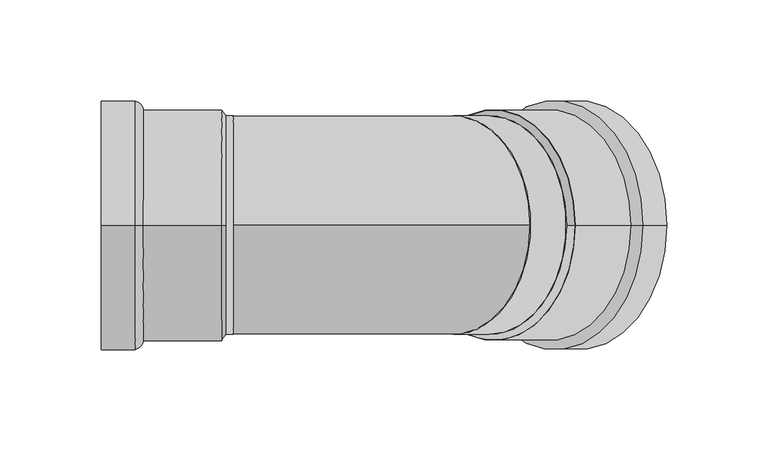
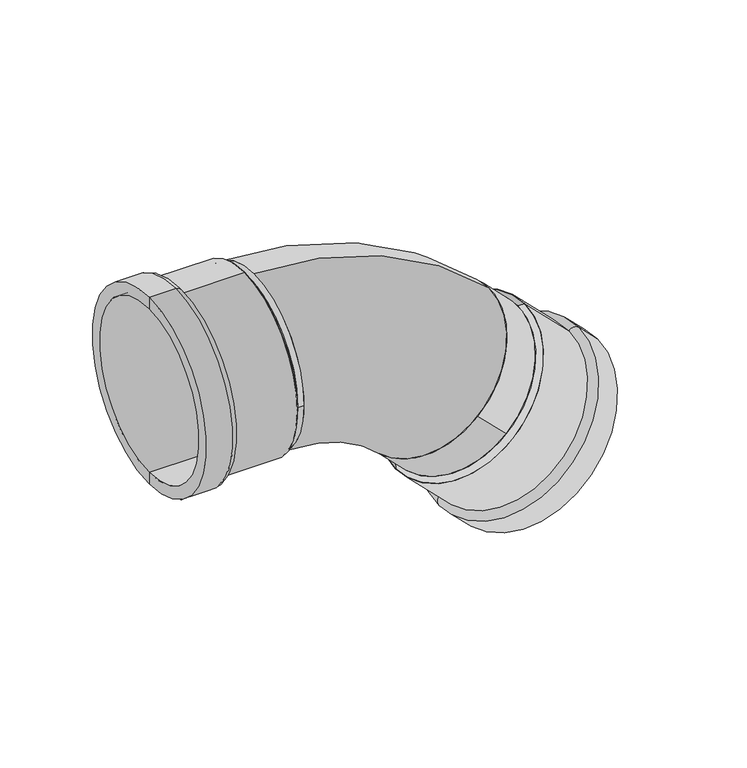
"""IFC4 building model written with IfcOpenShell, lengths in millimetres: pipe fitting geometry, VALTEC_VTi.959.I_Угольник 45° (раструб–раструб) нержавеющая сталь : Тип 1."""

from ifc_helpers import new_model, si_unit, point, frame, frame_2d, origin, origin_2d, place, context, project, spatial, polyline, circle_curve, ellipse_curve, trimmed, segment, composite_curve, outline, extrude, source, transform, mapped, element, save
from ifc_brep_helpers import plane_surface, cylinder_surface, revolved_surface, advanced_brep


def pipe_fitting_f5040854(model_context):
    return source(origin(), model_context, "Body", "SolidModel", [
        advanced_brep(
        [(-5.75, 0.0, 56.7), (-5.75, 0.0, -56.7), (-3.75, 0.0, 54.0), (-3.75, 0.0, -54.0)],
        [
            (0, 1, circle_curve(frame((-5.75, 0.0, 0.0), z_axis=(-1.0, 0.0, 0.0), x_axis=(0.0, 0.0, 1.0)), 56.7)),
            (1, 0, circle_curve(frame((-5.75, 0.0, 0.0), z_axis=(-1.0, 0.0, 0.0), x_axis=(0.0, 0.0, -1.0)), 56.7)),
            (2, 3, circle_curve(frame((-3.75, 0.0, 0.0), z_axis=(1.0, 0.0, 0.0), x_axis=(0.0, 0.0, -1.0)), 54.0)),
            (3, 2, circle_curve(frame((-3.75, 0.0, 0.0), z_axis=(1.0, 0.0, 0.0), x_axis=(0.0, 0.0, 1.0)), 54.0)),
            (3, 1),
            (0, 2),
        ],
        [
            plane_surface(frame((-5.75, 0.0, 0.0), z_axis=(-1.0, 0.0, 0.0), x_axis=(0.0, 1.0, 0.0))),
            plane_surface(frame((-3.75, 0.0, 0.0), z_axis=(1.0, 0.0, 0.0), x_axis=(0.0, 1.0, 0.0))),
            revolved_surface(polyline([(-3.75, 0.0, -54.0), (-5.75, 0.0, -56.7)]), (36.25, 0.0, 0.0), (-1.0, 0.0, 0.0)),
            revolved_surface(polyline([(-3.75, 0.0, 54.0), (-5.75, 0.0, 56.7)]), (36.25, 0.0, 0.0), (-1.0, 0.0, 0.0)),
        ],
        [
            (0, [[1, 2]]),
            (1, [[3, 4]]),
            (2, [[-4, 5, -1, 6]]),
            (3, [[-3, -6, -2, -5]]),
        ],
    ),
        advanced_brep(
        [(88.4092459, 0.0, -105.013373), (168.5951549, 0.0, -24.827464), (88.1971138, 0.0, -100.9828644), (164.5646462, 0.0, -24.615332)],
        [
            (0, 1, circle_curve(frame((128.5022004, 0.0, -64.9204185), z_axis=(0.7071067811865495, 0.0, -0.7071067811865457), x_axis=(-0.7071067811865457, 0.0, -0.7071067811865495)), 56.7)),
            (1, 0, circle_curve(frame((128.5022004, 0.0, -64.9204185), z_axis=(0.7071067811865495, 0.0, -0.7071067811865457), x_axis=(0.7071067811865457, 0.0, 0.7071067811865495)), 56.7)),
            (2, 3, circle_curve(frame((126.38088, 0.0, -62.7990982), z_axis=(-0.7071067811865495, 0.0, 0.7071067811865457), x_axis=(0.7071067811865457, 0.0, 0.7071067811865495)), 54.0)),
            (3, 2, circle_curve(frame((126.38088, 0.0, -62.7990982), z_axis=(-0.7071067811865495, 0.0, 0.7071067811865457), x_axis=(-0.7071067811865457, 0.0, -0.7071067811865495)), 54.0)),
            (3, 1),
            (0, 2),
        ],
        [
            plane_surface(frame((128.5022004, 0.0, -64.9204185), z_axis=(0.7071067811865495, 0.0, -0.7071067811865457), x_axis=(0.0, 1.0, 0.0))),
            plane_surface(frame((126.38088, 0.0, -62.7990982), z_axis=(-0.7071067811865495, 0.0, 0.7071067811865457), x_axis=(0.0, 1.0, 0.0))),
            revolved_surface(polyline([(164.56464623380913, 0.0, -24.615331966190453), (168.5951549, 0.0, -24.827464)]), (83.9544731, 0.0, -20.3726913), (0.7071067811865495, 0.0, -0.7071067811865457)),
            revolved_surface(polyline([(88.19711386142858, 0.0, -100.98286433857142), (88.40924590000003, 0.0, -105.01337300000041)]), (83.9544731, 0.0, -20.3726913), (0.7071067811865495, 0.0, -0.7071067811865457)),
        ],
        [
            (0, [[1, 2]]),
            (1, [[3, 4]]),
            (2, [[-4, 5, -1, 6]]),
            (3, [[-3, -6, -2, -5]]),
        ],
    ),
        advanced_brep(
        [(-65.25, 0.0, -54.0), (-65.25, 0.0, 54.0), (-65.25, 0.0, 61.5), (-65.25, 0.0, -61.5), (-5.75, 0.0, -54.0), (-5.75, 0.0, 54.0), (-5.75, 0.0, -57.0), (-5.75, 0.0, 57.0), (-44.53, 0.0, -57.0), (-44.53, 0.0, 57.0), (-48.55, 0.0, -61.5), (-48.55, 0.0, 61.5)],
        [
            (0, 1, circle_curve(frame((-65.25, 0.0, 0.0), z_axis=(1.0, 0.0, 0.0), x_axis=(0.0, 0.0, 1.0)), 54.0)),
            (1, 2),
            (2, 3, circle_curve(frame((-65.25, 0.0, 0.0), z_axis=(-1.0, 0.0, 0.0), x_axis=(0.0, 0.0, 1.0)), 61.5)),
            (3, 0),
            (1, 0, circle_curve(frame((-65.25, 0.0, 0.0), z_axis=(1.0, 0.0, 0.0), x_axis=(0.0, 0.0, 1.0)), 54.0)),
            (3, 2, circle_curve(frame((-65.25, 0.0, 0.0), z_axis=(-1.0, 0.0, 0.0), x_axis=(0.0, 0.0, 1.0)), 61.5)),
            (4, 5, circle_curve(frame((-5.75, 0.0, 0.0), z_axis=(1.0, 0.0, 0.0), x_axis=(0.0, 0.0, 1.0)), 54.0)),
            (5, 1),
            (0, 4),
            (5, 4, circle_curve(frame((-5.75, 0.0, 0.0), z_axis=(1.0, 0.0, 0.0), x_axis=(0.0, 0.0, 1.0)), 54.0)),
            (6, 7, circle_curve(frame((-5.75, 0.0, 0.0), z_axis=(1.0, 0.0, 0.0), x_axis=(0.0, 0.0, 1.0)), 57.0)),
            (7, 5),
            (4, 6),
            (7, 6, circle_curve(frame((-5.75, 0.0, 0.0), z_axis=(1.0, 0.0, 0.0), x_axis=(0.0, 0.0, 1.0)), 57.0)),
            (8, 9, circle_curve(frame((-44.53, 0.0, 0.0), z_axis=(1.0, 0.0, 0.0), x_axis=(0.0, 0.0, 1.0)), 57.0)),
            (9, 7),
            (6, 8),
            (9, 8, circle_curve(frame((-44.53, 0.0, 0.0), z_axis=(1.0, 0.0, 0.0), x_axis=(0.0, 0.0, 1.0)), 57.0)),
            (10, 11, circle_curve(frame((-48.55, 0.0, 0.0), z_axis=(1.0, 0.0, 0.0), x_axis=(0.0, 0.0, 1.0)), 61.5)),
            (11, 9, circle_curve(frame((-48.9328974, 0.0, 57.112345), z_axis=(0.0, 1.0, 0.0), x_axis=(1.0, 0.0, 0.0)), 4.4043305)),
            (8, 10, circle_curve(frame((-48.9328974, 0.0, -57.112345), z_axis=(0.0, 1.0, 0.0), x_axis=(1.0, 0.0, 0.0)), 4.4043305)),
            (11, 10, circle_curve(frame((-48.55, 0.0, 0.0), z_axis=(1.0, 0.0, 0.0), x_axis=(0.0, 0.0, 1.0)), 61.5)),
            (2, 11),
            (10, 3),
        ],
        [
            plane_surface(frame((-65.25, 0.0, 0.0), z_axis=(-1.0, 0.0, 0.0), x_axis=(0.0, 0.0, 1.0))),
            revolved_surface(polyline([(-65.25, 0.0, 54.0), (-5.75, 0.0, 54.0)]), (-34.9306392, 0.0, 0.0), (-1.0, 0.0, 0.0)),
            plane_surface(frame((-5.75, 0.0, 0.0), z_axis=(1.0, 0.0, 0.0), x_axis=(0.0, 0.0, 1.0))),
            cylinder_surface(frame((-34.9306392, 0.0, 0.0), z_axis=(-1.0, 0.0, 0.0), x_axis=(0.0, 0.0, 1.0)), 57.0),
            revolved_surface(trimmed(ellipse_curve(frame((-48.9328974, 0.0, 57.112345), z_axis=(0.0, -1.0, 0.0), x_axis=(1.0, 0.0, 0.0)), 4.4043305, 4.4043305), [point((-44.53, 0.0, 57.0))], [point((-48.55, 0.0, 61.5))], True, "CARTESIAN"), (-34.9306392, 0.0, 0.0), (-1.0, 0.0, 0.0)),
            cylinder_surface(frame((-34.9306392, 0.0, 0.0), z_axis=(-1.0, 0.0, 0.0), x_axis=(0.0, 0.0, 1.0)), 61.5),
        ],
        [
            (0, [[1, 2, 3, 4]]),
            (0, [[5, -4, 6, -2]]),
            (1, [[7, 8, -1, 9]]),
            (1, [[10, -9, -5, -8]]),
            (2, [[11, 12, -7, 13]]),
            (2, [[14, -13, -10, -12]]),
            (3, [[15, 16, -11, 17]]),
            (3, [[18, -17, -14, -16]]),
            (4, [[19, 20, -15, 21]]),
            (4, [[22, -21, -18, -20]]),
            (5, [[-3, 23, -19, 24]]),
            (5, [[-6, -24, -22, -23]]),
        ],
    ),
        advanced_brep(
        [(208.75882, 0.0, -68.8095058), (132.3912877, 0.0, -145.1770382), (127.0879868, 0.0, -150.4803391), (214.0621209, 0.0, -63.506205), (166.6859665, 0.0, -26.7366524), (90.3184342, 0.0, -103.1041847), (168.8072869, 0.0, -24.615332), (88.1971138, 0.0, -105.2255051), (196.2288879, 0.0, -52.036933), (115.6187148, 0.0, -132.647106), (202.2534376, 0.0, -51.6975217), (115.2793036, 0.0, -138.6716558)],
        [
            (0, 1, circle_curve(frame((170.5750538, 0.0, -106.993272), z_axis=(-0.7071067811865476, 0.0, 0.7071067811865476), x_axis=(-0.7071067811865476, 0.0, -0.7071067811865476)), 54.0)),
            (1, 2),
            (2, 3, circle_curve(frame((170.5750538, 0.0, -106.993272), z_axis=(0.7071067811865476, 0.0, -0.7071067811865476), x_axis=(-0.7071067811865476, 0.0, -0.7071067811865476)), 61.5)),
            (3, 0),
            (1, 0, circle_curve(frame((170.5750538, 0.0, -106.993272), z_axis=(-0.7071067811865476, 0.0, 0.7071067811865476), x_axis=(-0.7071067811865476, 0.0, -0.7071067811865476)), 54.0)),
            (3, 2, circle_curve(frame((170.5750538, 0.0, -106.993272), z_axis=(0.7071067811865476, 0.0, -0.7071067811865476), x_axis=(-0.7071067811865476, 0.0, -0.7071067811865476)), 61.5)),
            (4, 5, circle_curve(frame((128.5022004, 0.0, -64.9204185), z_axis=(-0.7071067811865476, 0.0, 0.7071067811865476), x_axis=(-0.7071067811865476, 0.0, -0.7071067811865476)), 54.0)),
            (5, 1),
            (0, 4),
            (5, 4, circle_curve(frame((128.5022004, 0.0, -64.9204185), z_axis=(-0.7071067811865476, 0.0, 0.7071067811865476), x_axis=(-0.7071067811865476, 0.0, -0.7071067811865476)), 54.0)),
            (6, 7, circle_curve(frame((128.5022004, 0.0, -64.9204185), z_axis=(-0.7071067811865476, 0.0, 0.7071067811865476), x_axis=(-0.7071067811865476, 0.0, -0.7071067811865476)), 57.0)),
            (7, 5),
            (4, 6),
            (7, 6, circle_curve(frame((128.5022004, 0.0, -64.9204185), z_axis=(-0.7071067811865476, 0.0, 0.7071067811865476), x_axis=(-0.7071067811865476, 0.0, -0.7071067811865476)), 57.0)),
            (8, 9, circle_curve(frame((155.9238013, 0.0, -92.3420195), z_axis=(-0.7071067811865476, 0.0, 0.7071067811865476), x_axis=(-0.7071067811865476, 0.0, -0.7071067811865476)), 57.0)),
            (9, 7),
            (6, 8),
            (9, 8, circle_curve(frame((155.9238013, 0.0, -92.3420195), z_axis=(-0.7071067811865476, 0.0, 0.7071067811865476), x_axis=(-0.7071067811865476, 0.0, -0.7071067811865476)), 57.0)),
            (10, 11, circle_curve(frame((158.7663706, 0.0, -95.1845888), z_axis=(-0.7071067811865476, 0.0, 0.7071067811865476), x_axis=(-0.7071067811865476, 0.0, -0.7071067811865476)), 61.5)),
            (11, 9, circle_curve(frame((118.6525935, 0.0, -135.8398645), z_axis=(0.0, 1.0, 0.0), x_axis=(-0.7071067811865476, 0.0, 0.7071067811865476)), 4.4043305)),
            (8, 10, circle_curve(frame((199.4216464, 0.0, -55.0708117), z_axis=(0.0, 1.0, 0.0), x_axis=(-0.7071067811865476, 0.0, 0.7071067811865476)), 4.4043305)),
            (11, 10, circle_curve(frame((158.7663706, 0.0, -95.1845888), z_axis=(-0.7071067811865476, 0.0, 0.7071067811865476), x_axis=(-0.7071067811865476, 0.0, -0.7071067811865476)), 61.5)),
            (2, 11),
            (10, 3),
        ],
        [
            plane_surface(frame((170.5750538, 0.0, -106.993272), z_axis=(0.7071067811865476, 0.0, -0.7071067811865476), x_axis=(-0.7071067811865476, 0.0, -0.7071067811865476))),
            revolved_surface(polyline([(132.39128766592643, 0.0, -145.17703823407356), (90.31843416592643, 0.0, -103.10418473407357)]), (149.1360282, 0.0, -85.5542464), (0.7071067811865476, 0.0, -0.7071067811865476)),
            plane_surface(frame((128.5022004, 0.0, -64.9204185), z_axis=(-0.7071067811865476, 0.0, 0.7071067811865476), x_axis=(-0.7071067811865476, 0.0, -0.7071067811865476))),
            cylinder_surface(frame((149.1360282, 0.0, -85.5542464), z_axis=(0.7071067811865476, 0.0, -0.7071067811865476), x_axis=(-0.7071067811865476, 0.0, -0.7071067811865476)), 57.0),
            revolved_surface(trimmed(ellipse_curve(frame((118.6525935, 0.0, -135.8398645), z_axis=(0.0, -1.0, 0.0), x_axis=(-0.7071067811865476, 0.0, 0.7071067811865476)), 4.4043305, 4.4043305), [point((115.6187148, 0.0, -132.647106))], [point((115.2793036, 0.0, -138.6716558))], True, "CARTESIAN"), (149.1360282, 0.0, -85.5542464), (0.7071067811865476, 0.0, -0.7071067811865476)),
            cylinder_surface(frame((149.1360282, 0.0, -85.5542464), z_axis=(0.7071067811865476, 0.0, -0.7071067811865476), x_axis=(-0.7071067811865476, 0.0, -0.7071067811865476)), 61.5),
        ],
        [
            (0, [[1, 2, 3, 4]]),
            (0, [[5, -4, 6, -2]]),
            (1, [[7, 8, -1, 9]]),
            (1, [[10, -9, -5, -8]]),
            (2, [[11, 12, -7, 13]]),
            (2, [[14, -13, -10, -12]]),
            (3, [[15, 16, -11, 17]]),
            (3, [[18, -17, -14, -16]]),
            (4, [[19, 20, -15, 21]]),
            (4, [[22, -21, -18, -20]]),
            (5, [[-3, 23, -19, 24]]),
            (5, [[-6, -24, -22, -23]]),
        ],
    ),
        extrude(outline(composite_curve([segment(trimmed(circle_curve(origin_2d(), 54.0), [point((-54.0, 0.0))], [point((54.0, 0.0))], False, "CARTESIAN"), True, "CONTINUOUS"), segment(trimmed(circle_curve(origin_2d(), 54.0), [point((54.0, 0.0))], [point((-54.0, 0.0))], False, "CARTESIAN"), True, "CONTINUOUS")], self_intersect=False)), frame((-3.75, 0.0, 0.0), z_axis=(1.0, 0.0, 0.0), x_axis=(0.0, 1.0, 0.0)), (0.0, 0.0, 1.0), 3.75),
        extrude(outline(composite_curve([segment(trimmed(circle_curve(frame_2d((0.0, -54.0)), 54.0), [point((0.0, -108.0))], [point((0.0, 0.0))], False, "CARTESIAN"), True, "CONTINUOUS"), segment(trimmed(circle_curve(frame_2d((0.0, -54.0)), 54.0), [point((0.0, 0.0))], [point((0.0, -108.0))], False, "CARTESIAN"), True, "CONTINUOUS")], self_intersect=False)), frame((126.38088, -54.0, -62.7990982), z_axis=(-0.7071067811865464, 0.0, 0.7071067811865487), x_axis=(-0.7071067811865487, 0.0, -0.7071067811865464)), (0.0, 0.0, 1.0), 25.2295545),
        advanced_brep(
        [(0.0, 0.0, -54.0), (0.0, 0.0, 54.0), (70.3571247, 0.0, -83.1428753), (146.7246571, 0.0, -6.7753429)],
        [
            (0, 1, circle_curve(frame((0.0, 0.0, 0.0), z_axis=(-1.0, 0.0, 0.0), x_axis=(0.0, 0.0, 1.0)), 54.0)),
            (1, 0, circle_curve(frame((0.0, 0.0, 0.0), z_axis=(-1.0, 0.0, 0.0), x_axis=(0.0, 0.0, 1.0)), 54.0)),
            (2, 3, circle_curve(frame((108.5408909, 0.0, -44.9591091), z_axis=(0.7071067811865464, 0.0, -0.7071067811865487), x_axis=(0.7071067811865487, 0.0, 0.7071067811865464)), 54.0)),
            (3, 2, circle_curve(frame((108.5408909, 0.0, -44.9591091), z_axis=(0.7071067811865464, 0.0, -0.7071067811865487), x_axis=(0.7071067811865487, 0.0, 0.7071067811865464)), 54.0)),
            (3, 1, circle_curve(frame((0.0, 0.0, -153.5), z_axis=(0.0, -1.0, 0.0), x_axis=(0.0, 0.0, 1.0)), 207.5)),
            (0, 2, circle_curve(frame((0.0, 0.0, -153.5), z_axis=(0.0, 1.0, 0.0), x_axis=(0.0, 0.0, 1.0)), 99.5)),
        ],
        [
            plane_surface(frame((0.0, 0.0, 0.0), z_axis=(-1.0, 0.0, 0.0), x_axis=(0.0, -1.0, 0.0))),
            plane_surface(frame((108.5408909, 0.0, -44.9591091), z_axis=(0.7071067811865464, 0.0, -0.7071067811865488), x_axis=(0.0, -1.0, 0.0))),
            revolved_surface(trimmed(ellipse_curve(frame((0.0, 0.0, 0.0), z_axis=(-1.0, 0.0, 0.0), x_axis=(0.0, 0.0, 1.0)), 54.0, 54.0), [point((0.0, 0.0, -54.0))], [point((0.0, 0.0, 54.0))], True, "CARTESIAN"), (0.0, 0.0, -153.5), (0.0, 1.0, 0.0)),
            revolved_surface(trimmed(ellipse_curve(frame((0.0, 0.0, 0.0), z_axis=(-1.0, 0.0, 0.0), x_axis=(0.0, 0.0, 1.0)), 54.0, 54.0), [point((0.0, 0.0, 54.0))], [point((0.0, 0.0, -54.0))], True, "CARTESIAN"), (0.0, 0.0, -153.5), (0.0, 1.0, 0.0)),
        ],
        [
            (0, [[1, 2]]),
            (1, [[3, 4]]),
            (2, [[5, -1, 6, -4]]),
            (3, [[-6, -2, -5, -3]]),
        ],
    ),
    ])


if __name__ == "__main__":
    model = new_model("IFC4")
    model_context = context("Model", 3, world=origin())
    ifc_project = project(units=[si_unit("LENGTHUNIT", "METRE", prefix="MILLI")], contexts=[model_context])
    site = spatial("IfcSite", under=ifc_project)
    building = spatial("IfcBuilding", under=site)
    placement = place(None, origin())
    pipe_fitting_shape = pipe_fitting_f5040854(model_context)
    element("IfcPipeFitting", 1, ObjectType="VALTEC_VTi.959.I_Угольник 45° (раструб–раструб) нержавеющая сталь : Тип 1", at=placement, inside=building, context=model_context, shape_type="MappedRepresentation", body=[
        mapped(pipe_fitting_shape, transform((0.0, 0.0, 0.0), x_axis=(1.0, 0.0, 0.0), y_axis=(0.0, 1.0, 0.0), z_axis=(0.0, 0.0, 1.0))),
    ])
    save(model, "model.ifc")
